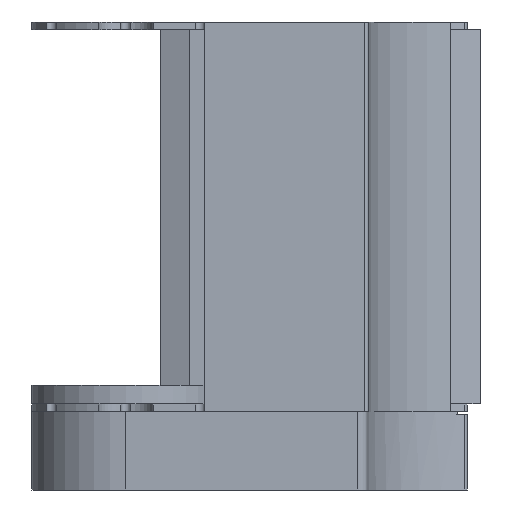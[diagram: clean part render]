
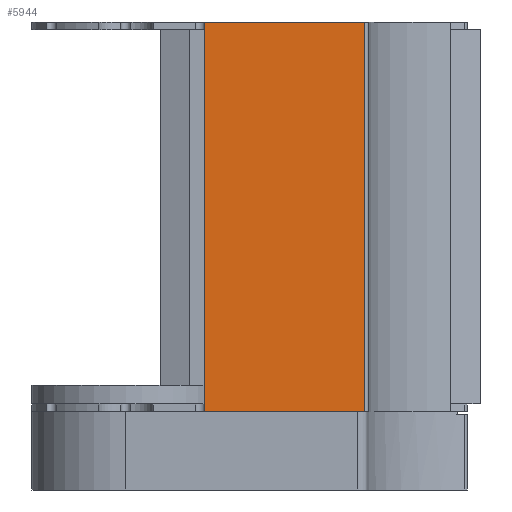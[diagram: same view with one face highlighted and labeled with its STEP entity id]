
A CAD part, front view. The second image highlights one B-rep face of the part: STEP entity #5944.
In plain terms, the highlighted planar face has unit normal (0, -1, 0).
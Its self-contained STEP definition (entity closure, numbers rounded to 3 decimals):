
#1110 = DIRECTION ( 'NONE',  ( 0., -1., 0. ) ) ;
#1283 = DIRECTION ( 'NONE',  ( 1., 0., 0. ) ) ;
#1458 = EDGE_CURVE ( 'NONE', #11686, #7005, #5452, .T. ) ;
#1903 = LINE ( 'NONE', #10092, #10853 ) ;
#2039 = ORIENTED_EDGE ( 'NONE', *, *, #12451, .F. ) ;
#2308 = CARTESIAN_POINT ( 'NONE',  ( -65.221, -61., 124.5 ) ) ;
#3010 = CARTESIAN_POINT ( 'NONE',  ( 37.279, -61., -325.903 ) ) ;
#3897 = DIRECTION ( 'NONE',  ( 0., 0., -1. ) ) ;
#4963 = PLANE ( 'NONE',  #7455 ) ;
#5378 = LINE ( 'NONE', #6265, #11869 ) ;
#5413 = EDGE_LOOP ( 'NONE', ( #2039, #6409, #10382, #9907 ) ) ;
#5452 = LINE ( 'NONE', #12554, #11791 ) ;
#5944 = ADVANCED_FACE ( 'NONE', ( #6685 ), #4963, .T. ) ;
#5954 = DIRECTION ( 'NONE',  ( 0., 0., 1. ) ) ;
#6265 = CARTESIAN_POINT ( 'NONE',  ( 37.279, -61., -325.903 ) ) ;
#6298 = VERTEX_POINT ( 'NONE', #2308 ) ;
#6409 = ORIENTED_EDGE ( 'NONE', *, *, #1458, .T. ) ;
#6685 = FACE_OUTER_BOUND ( 'NONE', #5413, .T. ) ;
#6847 = EDGE_CURVE ( 'NONE', #6298, #7454, #1903, .T. ) ;
#7005 = VERTEX_POINT ( 'NONE', #11271 ) ;
#7185 = VECTOR ( 'NONE', #5954, 1000. ) ;
#7216 = DIRECTION ( 'NONE',  ( 0., 0., 1. ) ) ;
#7454 = VERTEX_POINT ( 'NONE', #12340 ) ;
#7455 = AXIS2_PLACEMENT_3D ( 'NONE', #3010, #1110, #3897 ) ;
#8519 = EDGE_CURVE ( 'NONE', #7005, #7454, #5378, .T. ) ;
#9434 = LINE ( 'NONE', #9776, #7185 ) ;
#9776 = CARTESIAN_POINT ( 'NONE',  ( -65.221, -61., -325.903 ) ) ;
#9907 = ORIENTED_EDGE ( 'NONE', *, *, #6847, .F. ) ;
#10092 = CARTESIAN_POINT ( 'NONE',  ( 37.279, -61., 124.5 ) ) ;
#10097 = CARTESIAN_POINT ( 'NONE',  ( -65.221, -61., -124.5 ) ) ;
#10382 = ORIENTED_EDGE ( 'NONE', *, *, #8519, .T. ) ;
#10853 = VECTOR ( 'NONE', #1283, 1000. ) ;
#11271 = CARTESIAN_POINT ( 'NONE',  ( 37.279, -61., -124.5 ) ) ;
#11686 = VERTEX_POINT ( 'NONE', #10097 ) ;
#11791 = VECTOR ( 'NONE', #12516, 1000. ) ;
#11869 = VECTOR ( 'NONE', #7216, 1000. ) ;
#12340 = CARTESIAN_POINT ( 'NONE',  ( 37.279, -61., 124.5 ) ) ;
#12451 = EDGE_CURVE ( 'NONE', #11686, #6298, #9434, .T. ) ;
#12516 = DIRECTION ( 'NONE',  ( 1., 0., 0. ) ) ;
#12554 = CARTESIAN_POINT ( 'NONE',  ( 37.279, -61., -124.5 ) ) ;
